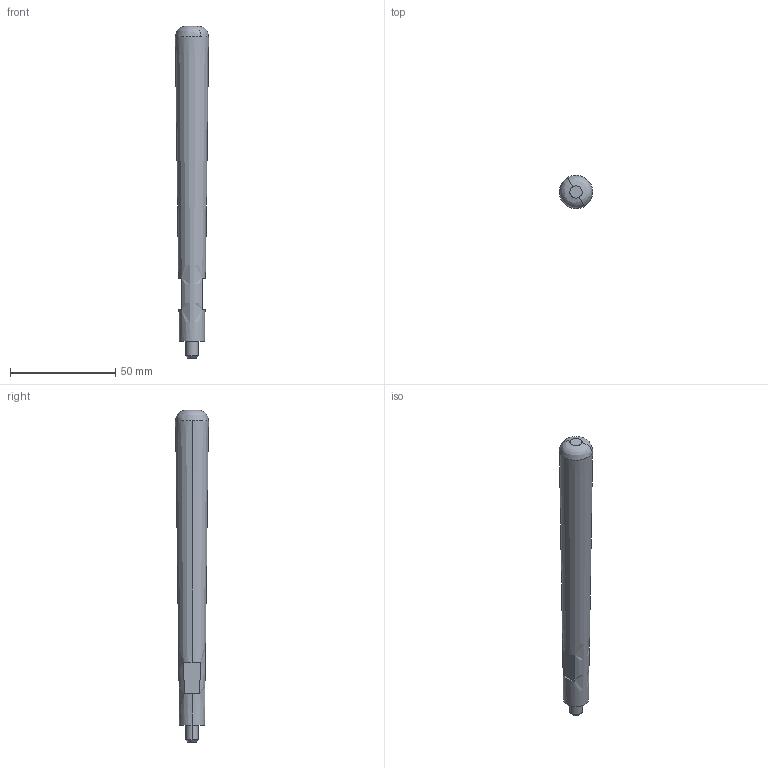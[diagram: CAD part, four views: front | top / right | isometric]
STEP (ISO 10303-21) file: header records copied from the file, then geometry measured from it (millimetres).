
FILE_DESCRIPTION (( 'STEP AP214' ), '1' );
FILE_NAME ('GZ26.05_V1手柄.STEP', '2021-03-31T06:00:54', ( '微软中国' ), ( 'Microsoft' ), 'SwSTEP 2.0', 'SolidWorks 2017', '' );
FILE_SCHEMA (( 'AUTOMOTIVE_DESIGN' ));
Length unit declared in the file: millimetre
Products named in the file (1): GZ26.05_V1忒梟
Bounding box: 15.86 x 15.86 x 158 mm (x, y, z)
Volume: 23023.5 mm3; surface area: 6938 mm2
Topology: 1 solids, 1 shells, 17 faces, 42 edges, 28 vertices
Faces by surface type: plane 9, cone 4, bspline 2, cylinder 2
Entity records: 793 total; most frequent: CARTESIAN_POINT 337, ORIENTED_EDGE 84, DIRECTION 84, EDGE_CURVE 42, AXIS2_PLACEMENT_3D 36, VERTEX_POINT 28, CIRCLE 20, EDGE_LOOP 18
